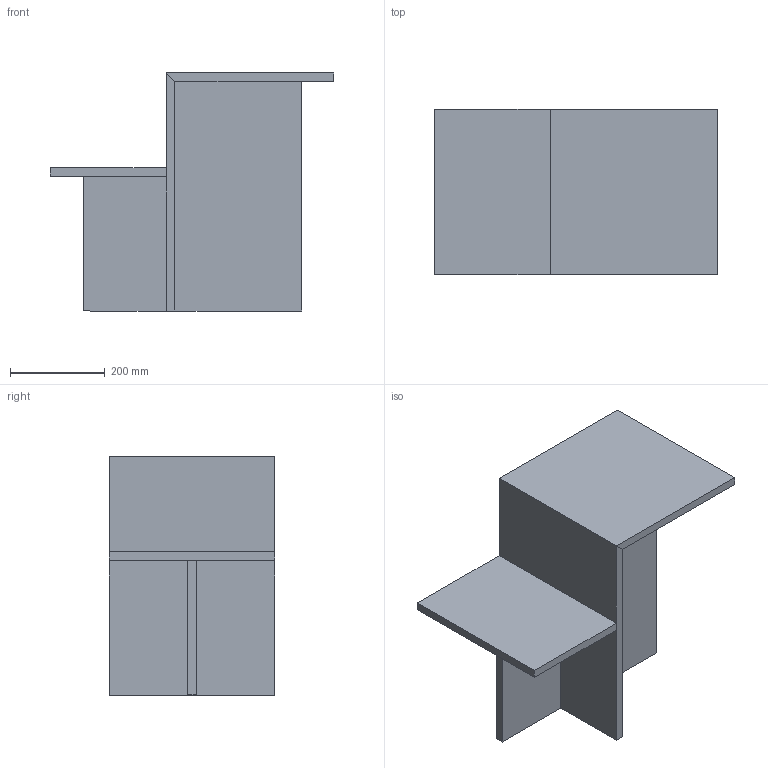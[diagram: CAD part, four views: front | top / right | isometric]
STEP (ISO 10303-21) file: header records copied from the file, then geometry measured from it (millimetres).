
FILE_DESCRIPTION(/* description */ (''),/* implementation_level */ '2;1');
FILE_NAME(/* name */ 'D2YGV9~1',/* time_stamp */ '2019-09-05T11:33:58+02:00',/* author */ (''),/* organization */ (''),/* preprocessor_version */ 'ST-DEVELOPER v16.5',/* originating_system */ '',/* authorisation */ '');
FILE_SCHEMA (('AUTOMOTIVE_DESIGN'));
Length unit declared in the file: millimetre
Products named in the file (1): Document
Bounding box: 598.88 x 350 x 503.15 mm (x, y, z)
Volume: 4770848.5 mm3; surface area: 1226720.6 mm2
Topology: 3 solids, 5 shells, 28 faces, 60 edges, 40 vertices
Faces by surface type: plane 21, bspline 7
Entity records: 680 total; most frequent: CARTESIAN_POINT 212, ORIENTED_EDGE 112, EDGE_CURVE 60, B_SPLINE_CURVE_WITH_KNOTS 60, VERTEX_POINT 40, ADVANCED_FACE 28, FACE_OUTER_BOUND 28, EDGE_LOOP 28
